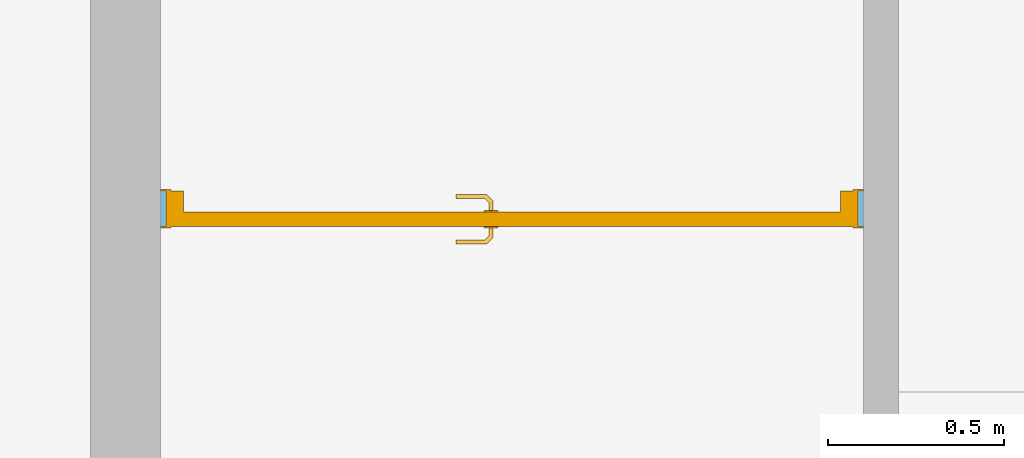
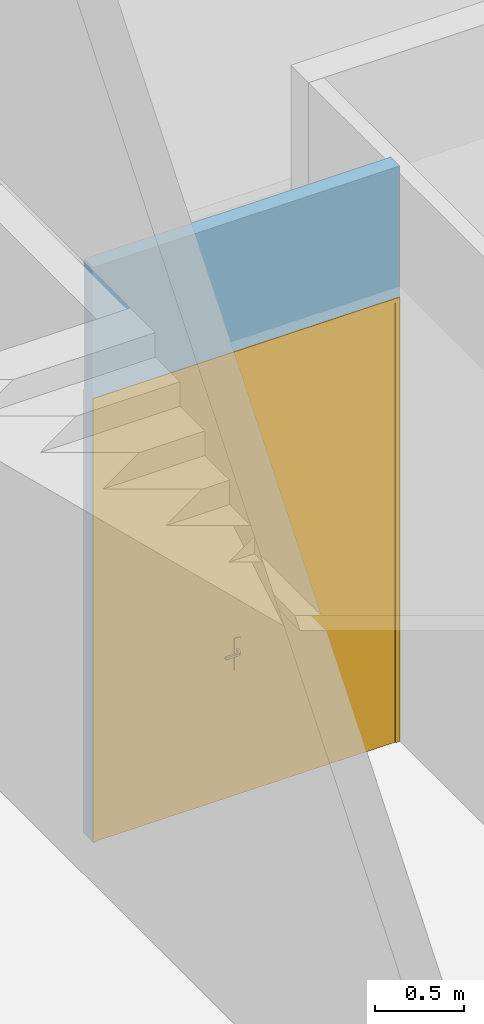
# One storey, part 211 of 240: 1 door, 1 opening, plus 1 element that does not belong to this part.
"""IFC2X3 building model written with IfcOpenShell, lengths in centimetres."""

from ifc_helpers import new_model, entity, si_unit, converted_unit, derived_unit, direction, frame, frame_2d, origin, place, context, subcontext, project, spatial, rectangle, extrude, faceted_brep, source, transform, mapped, material, material_list, layer, layer_set, layer_usage, type_object, type_shapes, element, fill, save


model = new_model("IFC2X3")

# Units and contexts
model_context = context("Model", 3, precision=0.001, world=origin(), true_north=direction((6.12303176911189e-17, 1.0)))
body_context = subcontext(model_context, "Body", "Model", "MODEL_VIEW")
ifc_project = project(units=[si_unit("LENGTHUNIT", "METRE", prefix="CENTI"), si_unit("AREAUNIT", "SQUARE_METRE"), si_unit("VOLUMEUNIT", "CUBIC_METRE"), converted_unit("PLANEANGLEUNIT", "DEGREE", entity("IfcRatioMeasure", 0.0174532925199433), si_unit("PLANEANGLEUNIT", "RADIAN"), dimensions=[0, 0, 0, 0, 0, 0, 0]), si_unit("MASSUNIT", "GRAM", prefix="KILO"), derived_unit("MASSDENSITYUNIT", [(si_unit("MASSUNIT", "GRAM", prefix="KILO"), 1), (si_unit("LENGTHUNIT", "METRE"), -3)]), si_unit("TIMEUNIT", "SECOND"), si_unit("FREQUENCYUNIT", "HERTZ"), si_unit("THERMODYNAMICTEMPERATUREUNIT", "DEGREE_CELSIUS"), derived_unit("THERMALTRANSMITTANCEUNIT", [(si_unit("MASSUNIT", "GRAM", prefix="KILO"), 1), (si_unit("THERMODYNAMICTEMPERATUREUNIT", "KELVIN"), -1), (si_unit("TIMEUNIT", "SECOND"), -3)]), derived_unit("VOLUMETRICFLOWRATEUNIT", [(si_unit("LENGTHUNIT", "METRE"), 3), (si_unit("TIMEUNIT", "SECOND"), -1)]), si_unit("ELECTRICCURRENTUNIT", "AMPERE"), si_unit("ELECTRICVOLTAGEUNIT", "VOLT"), si_unit("POWERUNIT", "WATT"), si_unit("FORCEUNIT", "NEWTON", prefix="KILO"), si_unit("ILLUMINANCEUNIT", "LUX"), si_unit("LUMINOUSFLUXUNIT", "LUMEN"), si_unit("LUMINOUSINTENSITYUNIT", "CANDELA"), derived_unit("USERDEFINED", [(si_unit("MASSUNIT", "GRAM", prefix="KILO"), -1), (si_unit("LENGTHUNIT", "METRE"), -2), (si_unit("TIMEUNIT", "SECOND"), 3), (si_unit("LUMINOUSFLUXUNIT", "LUMEN"), 1)]), derived_unit("LINEARVELOCITYUNIT", [(si_unit("LENGTHUNIT", "METRE"), 1), (si_unit("TIMEUNIT", "SECOND"), -1)]), si_unit("PRESSUREUNIT", "PASCAL"), derived_unit("USERDEFINED", [(si_unit("LENGTHUNIT", "METRE"), -2), (si_unit("MASSUNIT", "GRAM", prefix="KILO"), 1), (si_unit("TIMEUNIT", "SECOND"), -2)])], contexts=[model_context])

# Site, building, storey
site_placement = place(None, frame((-2781.94577612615, 7442.24238424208, 0.0)))
site = spatial("IfcSite", under=ifc_project, at=site_placement, Name="Default", CompositionType="ELEMENT")
building_placement = place(site_placement, origin())
building = spatial("IfcBuilding", under=site, at=building_placement, CompositionType="ELEMENT")
storey_placement = place(building_placement, origin())
storey = spatial("IfcBuildingStorey", under=building, at=storey_placement, Name="N00 - COO", CompositionType="ELEMENT", Elevation=0.0)

# Wall, opening, door
ifc_material_1 = material(Name="01 - Enduit/Plâtre")
ifc_layer_1 = layer(ifc_material_1, 1.3)
ifc_material_2 = material(Name="00 - Isolant")
ifc_layer_2 = layer(ifc_material_2, 7.4)
ifc_layer_3 = layer(ifc_material_1, 1.3)
ifc_layer_set = layer_set([ifc_layer_1, ifc_layer_2, ifc_layer_3], Name="Mur de base:06 - cloisons - Ba13 10cm")
ifc_layer_usage = layer_usage(ifc_layer_set, "AXIS2", "NEGATIVE", 5.0)
wall_type = type_object("IfcWallType", Name="Mur de base:06 - cloisons - Ba13 10cm", PredefinedType="STANDARD", material=ifc_layer_set)
wall_placement = place(building_placement, frame((-7966.49987760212, -1207.78802919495, 0.0)))
wall = element("IfcWallStandardCase", 1, at=wall_placement, inside=storey, type_object=wall_type, material=ifc_layer_usage, Name="Mur de base:06 - cloisons - Ba13 10cm", ObjectType="Mur de base:06 - cloisons - Ba13 10cm", context=body_context, shape_type="SweptSolid", body=[
    extrude(rectangle(XDim=200.0, YDim=9.99999999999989, at=frame_2d((99.9999999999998, 0.0), x_axis=(-1.0, 0.0))), origin(), (0.0, 0.0, 1.0), 396.0),
])
opening_placement = place(wall_placement, frame((198.499999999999, 5.0, 0.0)))
opening = element("IfcOpeningElement", 2, at=opening_placement, cuts=wall, Name="Int. Double:PV (1.90m x 3.00m):1", ObjectType="Opening", context=body_context, shape_type="SweptSolid", body=[
    extrude(rectangle(XDim=304.500000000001, YDim=197.0, at=frame_2d((152.250000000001, 98.5), x_axis=(1.0, 0.0))), frame((0.0, 0.0, 0.0), z_axis=(0.0, -1.0, 0.0), x_axis=(0.0, 0.0, 1.0)), (0.0, 0.0, 1.0), 10.0),
])
ifc_material_3 = material(Name="Bois - Panneau de porte")
ifc_material_4 = material(Name="Finition Peinture - Blanc satiné")
ifc_material_5 = material(Name="Bois - Cadre de porte")
ifc_material_list_1 = material_list([ifc_material_3, ifc_material_4, ifc_material_5])
ifc_material_list_2 = material_list([ifc_material_3, ifc_material_4, ifc_material_5])
door_style = type_object("IfcDoorStyle", Name="PV (1.90m x 3.00m)", ConstructionType="NOTDEFINED", OperationType="DOUBLE_DOOR_SINGLE_SWING", ParameterTakesPrecedence=False, Sizeable=False, material=ifc_material_list_2)
shared_shape = source(origin(), body_context, "Body", "Brep", [
    faceted_brep([(105.500000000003, 4.0, 301.0), (200.500000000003, 4.0, 301.0), (200.500000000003, 4.0, 0.0), (105.500000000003, 4.0, 0.0), (105.500000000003, 0.0, 301.0), (105.500000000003, 0.0, 0.0), (200.500000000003, 0.0, 0.0), (200.500000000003, 0.0, 301.0)], [[[0, 1, 2, 3]], [[4, 5, 6, 7]], [[1, 0, 4, 7]], [[2, 1, 7, 6]], [[3, 2, 6, 5]], [[0, 3, 5, 4]]]),
    faceted_brep([(101.500000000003, -0.50000000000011, 87.0), (101.500000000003, -0.50000000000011, 108.0), (100.535276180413, -0.500000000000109, 108.399601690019), (99.5000000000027, -0.500000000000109, 108.535898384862), (98.4647238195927, -0.500000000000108, 108.399601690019), (97.5000000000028, -0.500000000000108, 108.0), (97.5000000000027, -0.500000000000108, 87.0), (98.4647238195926, -0.500000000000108, 86.6003983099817), (99.5000000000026, -0.500000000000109, 86.464101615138), (100.535276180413, -0.500000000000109, 86.6003983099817), (101.500000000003, 0.0, 108.0), (101.500000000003, 0.0, 87.0), (100.535276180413, 0.0, 86.6003983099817), (99.5000000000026, 0.0, 86.464101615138), (98.4647238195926, 0.0, 86.6003983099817), (97.5000000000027, 0.0, 87.0), (97.5000000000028, 0.0, 108.0), (98.4647238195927, 0.0, 108.399601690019), (99.5000000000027, 0.0, 108.535898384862), (100.535276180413, 0.0, 108.399601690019)], [[[0, 1, 2, 3, 4, 5, 6, 7, 8, 9]], [[10, 11, 12, 13, 14, 15, 16, 17, 18, 19]], [[9, 12, 11, 0]], [[8, 13, 12, 9]], [[7, 14, 13, 8]], [[7, 6, 15, 14]], [[15, 6, 5, 16]], [[4, 17, 16, 5]], [[3, 18, 17, 4]], [[2, 19, 18, 3]], [[2, 1, 10, 19]], [[11, 10, 1, 0]]]),
    faceted_brep([(101.500000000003, 4.0, 87.0), (101.500000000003, 4.0, 108.0), (100.535276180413, 4.0, 108.399601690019), (99.5000000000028, 4.0, 108.535898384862), (98.4647238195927, 4.0, 108.399601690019), (97.5000000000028, 4.0, 108.0), (97.5000000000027, 4.0, 87.0), (98.4647238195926, 4.0, 86.6003983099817), (99.5000000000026, 4.0, 86.464101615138), (100.535276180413, 4.0, 86.6003983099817), (99.5000000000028, 4.49999999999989, 108.535898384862), (100.535276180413, 4.49999999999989, 108.399601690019), (101.500000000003, 4.49999999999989, 108.0), (101.500000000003, 4.49999999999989, 87.0), (100.535276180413, 4.49999999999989, 86.6003983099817), (99.5000000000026, 4.49999999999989, 86.464101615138), (98.4647238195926, 4.49999999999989, 86.6003983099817), (97.5000000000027, 4.49999999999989, 87.0), (97.5000000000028, 4.49999999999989, 108.0), (98.4647238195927, 4.49999999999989, 108.399601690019)], [[[0, 1, 2, 3, 4, 5, 6, 7, 8, 9]], [[10, 11, 12, 13, 14, 15, 16, 17, 18, 19]], [[4, 19, 18, 5]], [[3, 10, 19, 4]], [[2, 11, 10, 3]], [[2, 1, 12, 11]], [[13, 12, 1, 0]], [[9, 14, 13, 0]], [[8, 15, 14, 9]], [[7, 16, 15, 8]], [[7, 6, 17, 16]], [[17, 6, 5, 18]]]),
    faceted_brep([(99.297470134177, -0.500000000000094, 100.778044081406), (99.7025298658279, -0.500000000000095, 100.778044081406), (100.100000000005, -0.500000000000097, 100.699999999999), (100.100000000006, -0.500000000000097, 99.2999999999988), (99.7025298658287, -0.500000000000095, 99.221955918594), (99.2974701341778, -0.500000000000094, 99.2219559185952), (98.9, -0.500000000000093, 99.3000000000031), (98.9000000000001, -0.500000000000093, 100.7), (99.7025298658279, -3.10045754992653, 100.778044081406), (100.100000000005, -3.26509507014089, 100.7), (99.297470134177, -2.93267631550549, 100.778044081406), (97.9298602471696, -4.30028620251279, 100.778044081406), (98.0976414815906, -4.70534593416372, 100.778044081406), (98.9000000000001, -2.76803879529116, 100.7), (98.9, -2.76803879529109, 99.3000000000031), (99.2974701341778, -2.93267631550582, 99.2219559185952), (99.7025298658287, -3.10045754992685, 99.221955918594), (98.0976414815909, -4.7053459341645, 99.221955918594), (97.9298602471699, -4.30028620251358, 99.2219559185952), (100.100000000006, -3.26509507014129, 99.2999999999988), (98.2622790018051, -5.10281606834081, 100.7), (97.7652227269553, -3.90281606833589, 100.7), (97.7652227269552, -3.90281606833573, 99.3000000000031), (98.2622790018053, -5.10281606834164, 99.2999999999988), (89.4981359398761, -5.10281606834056, 100.7), (89.4981359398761, -4.70534593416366, 100.778044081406), (89.4981359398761, -4.30028620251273, 100.778044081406), (89.4981359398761, -3.9028160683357, 100.699999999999), (89.4981359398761, -3.90281606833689, 99.3000000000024), (89.4981359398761, -4.30028620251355, 99.2219559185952), (89.4981359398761, -4.70534593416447, 99.221955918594), (89.4981359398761, -5.10281606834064, 99.2999999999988), (93.7139980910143, -4.50281606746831, 100.78786867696), (94.2692302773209, -5.10281606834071, 100.7), (93.6316793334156, -3.9028160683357, 100.7), (93.6316793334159, -3.9028160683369, 99.3000000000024), (93.7139981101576, -4.50281607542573, 99.2121313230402), (94.269231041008, -5.10281606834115, 99.2999999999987)], [[[0, 1, 2, 3, 4, 5, 6, 7]], [[2, 1, 8, 9]], [[1, 0, 10, 11, 12, 8]], [[0, 7, 13, 10]], [[14, 13, 7, 6]], [[5, 15, 14, 6]], [[5, 4, 16, 17, 18, 15]], [[3, 19, 16, 4]], [[9, 19, 3, 2]], [[9, 8, 12, 20]], [[10, 13, 21, 11]], [[22, 21, 13, 14]], [[14, 15, 18, 22]], [[16, 19, 23, 17]], [[20, 23, 19, 9]], [[24, 25, 26, 27, 28, 29, 30, 31]], [[32, 25, 33]], [[33, 25, 24]], [[33, 20, 12]], [[11, 34, 32]], [[34, 11, 21]], [[27, 26, 34]], [[32, 26, 25]], [[32, 34, 26]], [[32, 33, 12]], [[11, 32, 12]], [[21, 22, 35, 28, 27, 34]], [[36, 29, 35]], [[30, 36, 37]], [[18, 35, 22]], [[29, 28, 35]], [[30, 37, 31]], [[37, 17, 23]], [[36, 17, 37]], [[36, 18, 17]], [[36, 35, 18]], [[29, 36, 30]], [[23, 20, 33, 24, 31, 37]]]),
    faceted_brep([(99.2974701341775, 4.4999999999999, 99.2219559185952), (99.7025298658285, 4.4999999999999, 99.221955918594), (100.100000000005, 4.4999999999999, 99.2999999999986), (100.100000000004, 4.4999999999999, 100.7), (99.7025298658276, 4.4999999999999, 100.778044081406), (99.2974701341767, 4.4999999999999, 100.778044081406), (98.8999999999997, 4.49999999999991, 100.7), (98.9000000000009, 4.49999999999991, 99.3000000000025), (98.8999999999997, 6.7485204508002, 100.7), (98.8999999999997, 6.7485204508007, 99.3000000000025), (99.2974701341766, 6.91315797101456, 100.778044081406), (99.7025298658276, 7.08093920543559, 100.778044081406), (98.0838906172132, 8.69957845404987, 100.778044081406), (97.9161093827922, 8.29451872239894, 100.778044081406), (100.100000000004, 7.24557672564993, 100.7), (100.100000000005, 7.24557672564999, 99.2999999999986), (99.7025298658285, 7.08093920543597, 99.221955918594), (99.2974701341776, 6.91315797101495, 99.2219559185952), (97.9161093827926, 8.29451872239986, 99.2219559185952), (98.0838906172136, 8.69957845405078, 99.221955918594), (97.7514718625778, 7.89704858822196, 100.7), (97.7514718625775, 7.89704858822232, 99.3000000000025), (98.2485281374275, 9.09704858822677, 100.7), (98.2485281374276, 9.0970485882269, 99.2999999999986), (89.4954216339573, 8.294518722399, 100.778044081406), (89.4954216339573, 8.69957845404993, 100.778044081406), (89.4954216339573, 9.09704858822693, 100.7), (89.4954216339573, 9.09704858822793, 99.2999999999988), (89.4954216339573, 8.6995784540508, 99.221955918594), (89.4954216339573, 8.29451872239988, 99.2219559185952), (89.4954216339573, 7.89704858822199, 99.3000000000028), (89.4954216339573, 7.8970485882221, 100.7), (93.6234467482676, 7.89704858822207, 100.7), (93.6234479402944, 7.89704858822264, 99.3000000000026), (93.7057655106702, 8.49704858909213, 100.78786867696), (94.2554794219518, 9.09704858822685, 100.7), (94.2554795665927, 9.09704858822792, 99.2999999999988), (93.7057654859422, 8.49704858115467, 99.2121313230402)], [[[0, 1, 2, 3, 4, 5, 6, 7]], [[8, 9, 7, 6]], [[5, 10, 8, 6]], [[5, 4, 11, 12, 13, 10]], [[3, 14, 11, 4]], [[14, 3, 2, 15]], [[2, 1, 16, 15]], [[1, 0, 17, 18, 19, 16]], [[0, 7, 9, 17]], [[20, 21, 9, 8]], [[8, 10, 13, 20]], [[14, 22, 12, 11]], [[23, 22, 14, 15]], [[15, 16, 19, 23]], [[17, 9, 21, 18]], [[24, 25, 26, 27, 28, 29, 30, 31]], [[21, 20, 32, 31, 30, 33]], [[34, 24, 32]], [[25, 34, 35]], [[13, 32, 20]], [[24, 31, 32]], [[25, 35, 26]], [[35, 12, 22]], [[34, 12, 35]], [[34, 13, 12]], [[34, 32, 13]], [[24, 34, 25]], [[22, 23, 36, 27, 26, 35]], [[37, 28, 36]], [[36, 28, 27]], [[36, 23, 19]], [[18, 33, 37]], [[33, 18, 21]], [[30, 29, 33]], [[37, 29, 28]], [[37, 33, 29]], [[37, 36, 19]], [[18, 37, 19]]]),
    faceted_brep([(105.500000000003, 4.0, 301.0), (105.500000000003, 4.0, 0.0), (10.5000000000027, 4.0, 0.0), (10.5000000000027, 4.0, 301.0), (105.500000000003, 0.0, 301.0), (10.5000000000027, 0.0, 301.0), (10.5000000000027, 0.0, 0.0), (105.500000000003, 0.0, 0.0)], [[[0, 1, 2, 3]], [[4, 5, 6, 7]], [[3, 5, 4, 0]], [[2, 6, 5, 3]], [[1, 7, 6, 2]], [[0, 4, 7, 1]]]),
    faceted_brep([(204.0, 0.0, 0.0), (200.500000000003, 0.0, 0.0), (200.500000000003, 4.0, 0.0), (199.0, 4.0, 0.0), (199.0, 10.0, 0.0), (204.0, 10.0, 0.0), (204.0, 10.0, 304.500000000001), (204.0, 0.0, 304.500000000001), (199.0, 10.0, 299.5), (12.0, 10.0, 299.5), (12.0, 10.0, 0.0), (7.0, 10.0, 0.0), (7.0, 10.0, 304.500000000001), (199.0, 4.0, 299.5), (200.500000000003, 4.0, 301.0), (10.5000000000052, 4.0, 301.0), (10.5000000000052, 4.0, 0.0), (12.0, 4.0, 0.0), (12.0, 4.0, 299.5), (200.500000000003, 0.0, 301.0), (7.0, 0.0, 304.500000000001), (7.0, 0.0, 0.0), (10.5000000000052, 0.0, 0.0), (10.5000000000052, 0.0, 301.0)], [[[0, 1, 2, 3, 4, 5]], [[5, 6, 7, 0]], [[4, 8, 9, 10, 11, 12, 6, 5]], [[3, 13, 8, 4]], [[2, 14, 15, 16, 17, 18, 13, 3]], [[1, 19, 14, 2]], [[0, 7, 20, 21, 22, 23, 19, 1]], [[12, 11, 21, 20]], [[21, 11, 10, 17, 16, 22]], [[18, 17, 10, 9]], [[23, 22, 16, 15]], [[6, 12, 20, 7]], [[13, 18, 9, 8]], [[19, 23, 15, 14]]]),
    faceted_brep([(202.500000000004, 10.0, 0.0), (202.500000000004, 10.5000000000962, 0.0), (205.500000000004, 10.5000000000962, 0.0), (205.500000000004, 10.0, 0.0), (205.500000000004, 10.0, 306.0), (5.50000000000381, 10.0, 306.0), (5.50000000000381, 10.0, 0.0), (8.50000000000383, 10.0, 0.0), (8.50000000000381, 10.0, 303.0), (202.500000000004, 10.0, 303.0), (205.500000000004, 10.5000000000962, 306.0), (202.500000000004, 10.5000000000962, 303.0), (8.50000000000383, 10.5000000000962, 303.0), (8.50000000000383, 10.5000000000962, 0.0), (5.50000000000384, 10.5000000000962, 0.0), (5.50000000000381, 10.5000000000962, 306.0)], [[[0, 1, 2, 3]], [[3, 4, 5, 6, 7, 8, 9, 0]], [[2, 10, 4, 3]], [[1, 11, 12, 13, 14, 15, 10, 2]], [[0, 9, 11, 1]], [[8, 7, 13, 12]], [[7, 6, 14, 13]], [[15, 14, 6, 5]], [[10, 15, 5, 4]], [[9, 8, 12, 11]]]),
    faceted_brep([(205.500000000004, -0.500000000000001, 0.0), (205.500000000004, -0.500000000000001, 306.0), (5.50000000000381, -0.500000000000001, 306.0), (5.50000000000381, -0.500000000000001, 0.0), (8.50000000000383, -0.500000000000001, 0.0), (8.50000000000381, -0.500000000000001, 303.0), (202.500000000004, -0.500000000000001, 303.0), (202.500000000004, -0.500000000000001, 0.0), (205.500000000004, 0.0, 0.0), (205.500000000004, 0.0, 306.0), (202.500000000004, 0.0, 0.0), (202.500000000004, 0.0, 303.0), (8.50000000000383, 0.0, 303.0), (8.50000000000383, 0.0, 0.0), (5.50000000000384, 0.0, 0.0), (5.50000000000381, 0.0, 306.0)], [[[0, 1, 2, 3, 4, 5, 6, 7]], [[8, 9, 1, 0]], [[10, 11, 12, 13, 14, 15, 9, 8]], [[7, 6, 11, 10]], [[5, 4, 13, 12]], [[15, 14, 3, 2]], [[9, 15, 2, 1]], [[6, 5, 12, 11]], [[4, 3, 14, 13]], [[7, 10, 8, 0]]]),
])
type_shapes(door_style, [shared_shape])
door_placement = place(opening_placement, frame((-204.0, -10.0, 0.0)))
door = element("IfcDoor", 3, at=door_placement, inside=storey, type_object=door_style, material=ifc_material_list_1, Name="Int. Double:PV (1.90m x 3.00m)", ObjectType="Int. Double:PV (1.90m x 3.00m)", OverallHeight=304.500000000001, OverallWidth=196.999999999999, context=body_context, shape_type="MappedRepresentation", body=[
    mapped(shared_shape, transform((0.0, 0.0, 0.0), scale=1.0)),
])
fill(opening, door)

save(model, "model.ifc")
